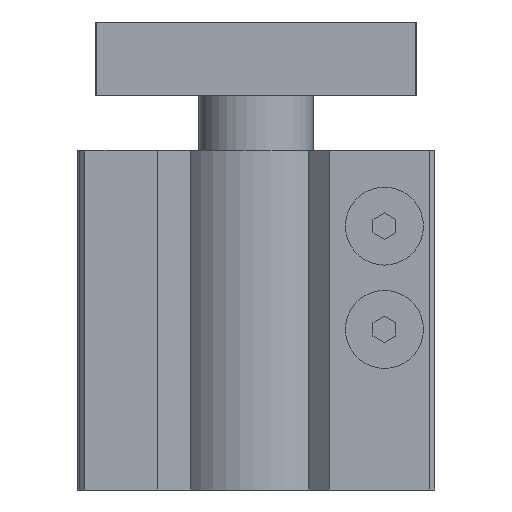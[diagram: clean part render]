
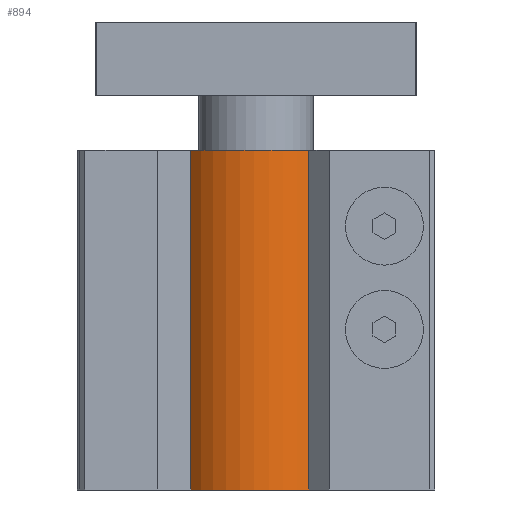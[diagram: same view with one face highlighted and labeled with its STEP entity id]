
A CAD part, front view. The second image highlights one B-rep face of the part: STEP entity #894.
In plain terms, the highlighted cylindrical face has radius 18.5 mm (diameter 37 mm), a partial arc.
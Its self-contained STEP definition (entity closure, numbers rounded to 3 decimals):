
#894 = ADVANCED_FACE( '', ( #1953 ), #1954, .T. );
#1953 = FACE_OUTER_BOUND( '', #3143, .T. );
#1954 = CYLINDRICAL_SURFACE( '', #3144, 18.5 );
#3143 = EDGE_LOOP( '', ( #5568, #5569, #5570, #5571 ) );
#3144 = AXIS2_PLACEMENT_3D( '', #5572, #5573, #5574 );
#5568 = ORIENTED_EDGE( '', *, *, #6749, .F. );
#5569 = ORIENTED_EDGE( '', *, *, #7416, .F. );
#5570 = ORIENTED_EDGE( '', *, *, #7176, .T. );
#5571 = ORIENTED_EDGE( '', *, *, #7417, .T. );
#5572 = CARTESIAN_POINT( '', ( 0., -62., -74. ) );
#5573 = DIRECTION( '', ( 0., 0., -1. ) );
#5574 = DIRECTION( '', ( 1., 0., 0. ) );
#6749 = EDGE_CURVE( '', #8089, #7876, #8091, .T. );
#7176 = EDGE_CURVE( '', #8739, #8737, #8740, .T. );
#7416 = EDGE_CURVE( '', #8739, #8089, #9052, .T. );
#7417 = EDGE_CURVE( '', #8737, #7876, #9053, .T. );
#7876 = VERTEX_POINT( '', #9651 );
#8089 = VERTEX_POINT( '', #9927 );
#8091 = CIRCLE( '', #9930, 18.5 );
#8737 = VERTEX_POINT( '', #10856 );
#8739 = VERTEX_POINT( '', #10859 );
#8740 = CIRCLE( '', #10860, 18.5 );
#9052 = LINE( '', #11333, #11334 );
#9053 = LINE( '', #11335, #11336 );
#9651 = CARTESIAN_POINT( '', ( 11.495, -76.495, 0. ) );
#9927 = CARTESIAN_POINT( '', ( -14.272, -73.772, 0. ) );
#9930 = AXIS2_PLACEMENT_3D( '', #12045, #12046, #12047 );
#10856 = CARTESIAN_POINT( '', ( 11.495, -76.495, -74. ) );
#10859 = CARTESIAN_POINT( '', ( -14.272, -73.772, -74. ) );
#10860 = AXIS2_PLACEMENT_3D( '', #12549, #12550, #12551 );
#11333 = CARTESIAN_POINT( '', ( -14.272, -73.772, -74. ) );
#11334 = VECTOR( '', #12810, 1000. );
#11335 = CARTESIAN_POINT( '', ( 11.495, -76.495, -74. ) );
#11336 = VECTOR( '', #12811, 1000. );
#12045 = CARTESIAN_POINT( '', ( 0., -62., 0. ) );
#12046 = DIRECTION( '', ( 0., 0., 1. ) );
#12047 = DIRECTION( '', ( 1., 0., 0. ) );
#12549 = CARTESIAN_POINT( '', ( 0., -62., -74. ) );
#12550 = DIRECTION( '', ( 0., 0., 1. ) );
#12551 = DIRECTION( '', ( 1., 0., 0. ) );
#12810 = DIRECTION( '', ( 0., 0., 1. ) );
#12811 = DIRECTION( '', ( 0., 0., 1. ) );
